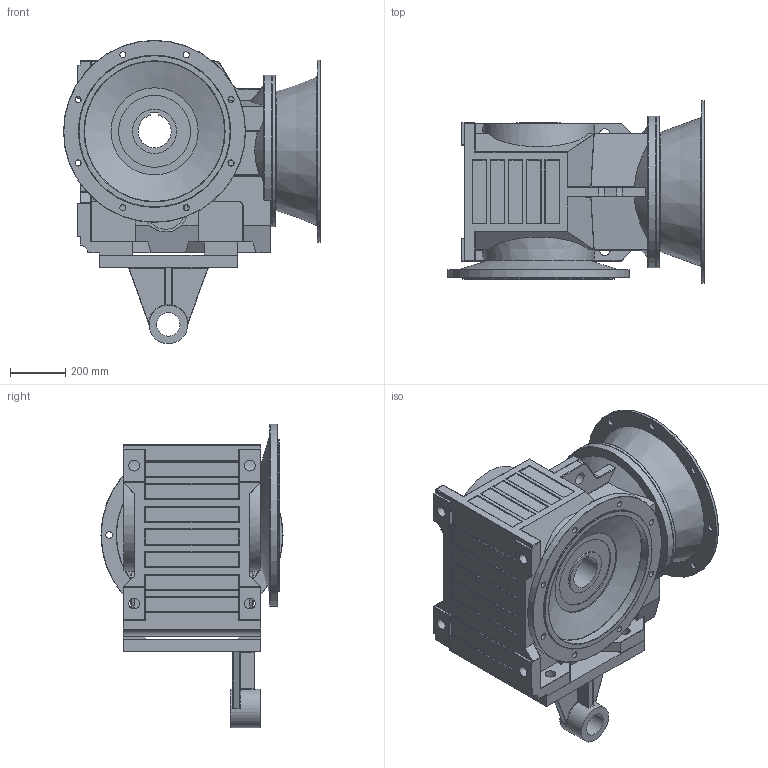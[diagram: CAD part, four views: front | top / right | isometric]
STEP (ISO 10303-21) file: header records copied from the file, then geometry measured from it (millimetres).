
FILE_DESCRIPTION((''),'2;1');
FILE_NAME('F:\PAWEŁ\ZLECENIA\2011 DualSystem\Przekładnie DK\001 Modele\DKAB150_\DK_150_STEP\DK_B_150_AT_AF_315S_B5_L175,5.stp','2012-06-26T19:35:22',('admin'),(''),'Autodesk Inventor 2009','Autodesk Inventor 2009','');
FILE_SCHEMA(('AUTOMOTIVE_DESIGN { 1 0 10303 214 1 1 1 1 }'));
Length unit declared in the file: millimetre
Products named in the file (5): DK_B_150_AT_AF_315S_B5_L175,5 (Poziom szczegółów1); DK_B_150; 315S_B5_L175,5; AF_F_150; AT_150
Assembly tree (4 placements, depth 2):
  DK_B_150_AT_AF_315S_B5_L175,5 (Poziom szczegółów1)
    DK_B_150
    315S_B5_L175,5
    AF_F_150
    AT_150
Bounding box: 931.5 x 660 x 1100 mm (x, y, z)
Volume: 208917674.5 mm3; surface area: 5531795 mm2
Topology: 4 solids, 4 shells, 668 faces, 1636 edges, 962 vertices
Faces by surface type: cylinder 261, plane 188, bspline 180, torus 23, sphere 8, cone 8
Full cylindrical faces by diameter (mm): 39 x8, 45 x1, 85 x1, 95 x1, 140 x2, 160 x2, 260.781 x1, 316 x1, 460 x1, 510 x1, 527.234 x1, 540 x1, 550 x3, 660 x2
Entity records: 26294 total; most frequent: CARTESIAN_POINT 11329, DIRECTION 3036, ORIENTED_EDGE 3028, EDGE_CURVE 1514, AXIS2_PLACEMENT_3D 1152, VERTEX_POINT 945, EDGE_LOOP 823, VECTOR 732
